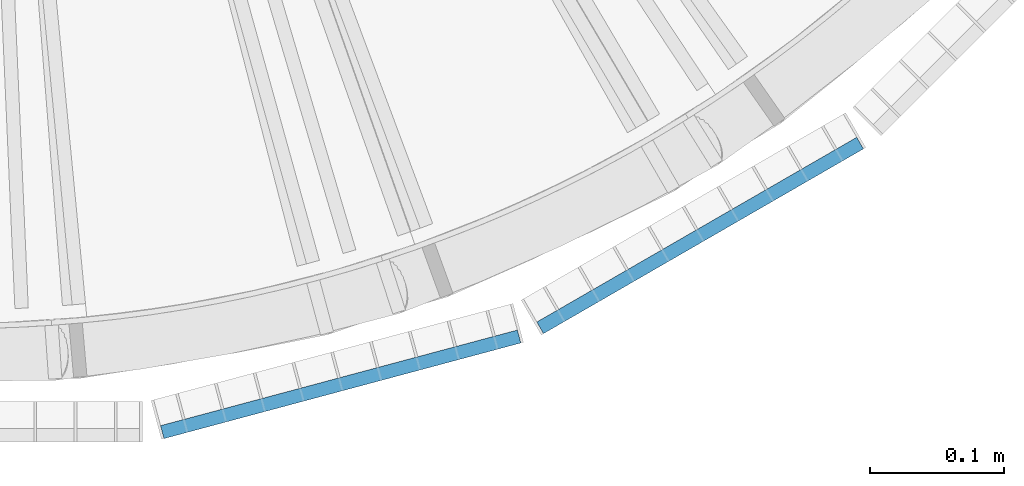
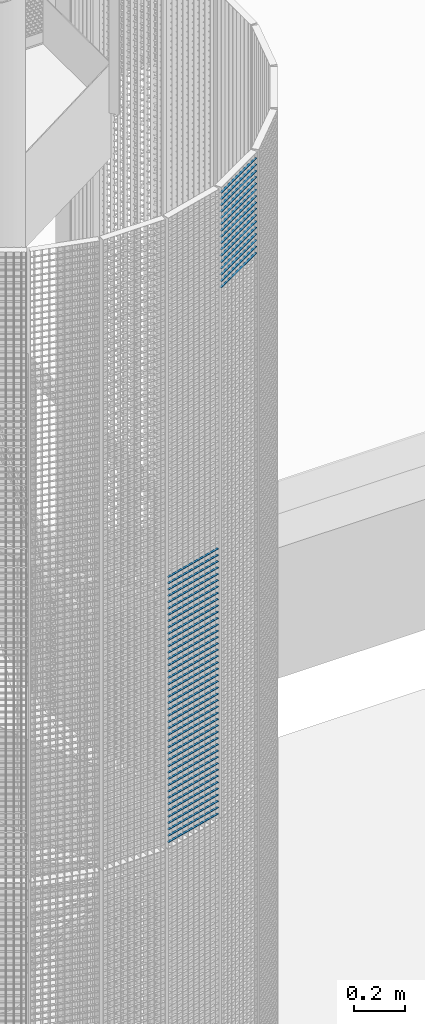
# One storey, part 393 of 1183: 59 beams, 2 elements without a shape of their own.
"""IFC2X3 building model written with IfcOpenShell, lengths in millimetres."""

from ifc_helpers import new_model, si_unit, frame, origin_with_axes, origin_2d_with_axis, place, context, subcontext, project, spatial, rectangle, extrude, material, type_object, element, aggregate, save


model = new_model("IFC2X3")

# Units and contexts
model_context = context("Model", 3, precision=1e-05, world=origin_with_axes())
body_context = subcontext(model_context, "Body", "Model", "MODEL_VIEW")
ifc_project = project(units=[si_unit("LENGTHUNIT", "METRE", prefix="MILLI"), si_unit("AREAUNIT", "SQUARE_METRE"), si_unit("VOLUMEUNIT", "CUBIC_METRE"), si_unit("MASSUNIT", "GRAM", prefix="KILO"), si_unit("TIMEUNIT", "SECOND"), si_unit("PLANEANGLEUNIT", "RADIAN"), si_unit("SOLIDANGLEUNIT", "STERADIAN"), si_unit("THERMODYNAMICTEMPERATUREUNIT", "DEGREE_CELSIUS"), si_unit("LUMINOUSINTENSITYUNIT", "LUMEN")], contexts=[model_context])

# Site, building, storey
site_placement = place(None, origin_with_axes())
site = spatial("IfcSite", under=ifc_project, at=site_placement, Name="Undefined", CompositionType="ELEMENT")
building_placement = place(site_placement, origin_with_axes())
building = spatial("IfcBuilding", under=site, at=building_placement, Name="Undefined", CompositionType="ELEMENT")
storey_placement = place(building_placement, origin_with_axes())
storey = spatial("IfcBuildingStorey", under=building, at=storey_placement, Name="Undefined", CompositionType="ELEMENT", Elevation=0.0)

# Assembly, beams
assembly_1_placement = place(storey_placement, origin_with_axes())
assembly_1 = element("IfcElementAssembly", 1, at=assembly_1_placement, inside=storey, Name="BORDURE", AssemblyPlace="NOTDEFINED", PredefinedType="NOTDEFINED")
ifc_material = material(Name="STEEL/S235JR")
beam_type = type_object("IfcBeamType", Name="PL2*10", PredefinedType="NOTDEFINED")
beam_1_placement = place(assembly_1_placement, frame((22021.4837339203, -1039.82309522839, 16290.0), z_axis=(0.258819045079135, -0.965925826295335, 0.0), x_axis=(-0.965925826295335, -0.258819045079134, 0.0)))
beam_1 = element("IfcBeam", 2, at=beam_1_placement, type_object=beam_type, material=ifc_material, Name="ENTRETOISE", context=body_context, shape_type="SweptSolid", body=[
    extrude(rectangle(XDim=2.0, YDim=10.0, at=origin_2d_with_axis()), frame((275.999999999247, 9.09494701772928e-13, 1.53210777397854e-14), z_axis=(-1.0, 0.0, 0.0), x_axis=(0.0, -1.0, 0.0)), (0.0, 0.0, 1.0), 276.0),
])
beam_2_placement = place(assembly_1_placement, frame((22021.4837339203, -1039.82309522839, 16260.0), z_axis=(0.258819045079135, -0.965925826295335, 0.0), x_axis=(-0.965925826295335, -0.258819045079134, 0.0)))
beam_2 = element("IfcBeam", 3, at=beam_2_placement, type_object=beam_type, material=ifc_material, Name="ENTRETOISE", context=body_context, shape_type="SweptSolid", body=[
    extrude(rectangle(XDim=2.0, YDim=10.0, at=origin_2d_with_axis()), frame((275.999999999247, 9.09494701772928e-13, 1.53210777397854e-14), z_axis=(-1.0, 0.0, 0.0), x_axis=(0.0, -1.0, 0.0)), (0.0, 0.0, 1.0), 276.0),
])
beam_3_placement = place(assembly_1_placement, frame((22021.4837339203, -1039.82309522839, 16230.0), z_axis=(0.258819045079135, -0.965925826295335, 0.0), x_axis=(-0.965925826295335, -0.258819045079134, 0.0)))
beam_3 = element("IfcBeam", 4, at=beam_3_placement, type_object=beam_type, material=ifc_material, Name="ENTRETOISE", context=body_context, shape_type="SweptSolid", body=[
    extrude(rectangle(XDim=2.0, YDim=10.0, at=origin_2d_with_axis()), frame((275.999999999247, 9.09494701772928e-13, 1.53210777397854e-14), z_axis=(-1.0, 0.0, 0.0), x_axis=(0.0, -1.0, 0.0)), (0.0, 0.0, 1.0), 276.0),
])
beam_4_placement = place(assembly_1_placement, frame((22021.4837339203, -1039.82309522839, 16200.0), z_axis=(0.258819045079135, -0.965925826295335, 0.0), x_axis=(-0.965925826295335, -0.258819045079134, 0.0)))
beam_4 = element("IfcBeam", 5, at=beam_4_placement, type_object=beam_type, material=ifc_material, Name="ENTRETOISE", context=body_context, shape_type="SweptSolid", body=[
    extrude(rectangle(XDim=2.0, YDim=10.0, at=origin_2d_with_axis()), frame((275.999999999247, 9.09494701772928e-13, 1.53210777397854e-14), z_axis=(-1.0, 0.0, 0.0), x_axis=(0.0, -1.0, 0.0)), (0.0, 0.0, 1.0), 276.0),
])
beam_5_placement = place(assembly_1_placement, frame((22021.4837339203, -1039.82309522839, 16170.0), z_axis=(0.258819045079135, -0.965925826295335, 0.0), x_axis=(-0.965925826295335, -0.258819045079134, 0.0)))
beam_5 = element("IfcBeam", 6, at=beam_5_placement, type_object=beam_type, material=ifc_material, Name="ENTRETOISE", context=body_context, shape_type="SweptSolid", body=[
    extrude(rectangle(XDim=2.0, YDim=10.0, at=origin_2d_with_axis()), frame((275.999999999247, 9.09494701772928e-13, 1.53210777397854e-14), z_axis=(-1.0, 0.0, 0.0), x_axis=(0.0, -1.0, 0.0)), (0.0, 0.0, 1.0), 276.0),
])
beam_6_placement = place(assembly_1_placement, frame((22021.4837339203, -1039.82309522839, 16140.0), z_axis=(0.258819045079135, -0.965925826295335, 0.0), x_axis=(-0.965925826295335, -0.258819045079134, 0.0)))
beam_6 = element("IfcBeam", 7, at=beam_6_placement, type_object=beam_type, material=ifc_material, Name="ENTRETOISE", context=body_context, shape_type="SweptSolid", body=[
    extrude(rectangle(XDim=2.0, YDim=10.0, at=origin_2d_with_axis()), frame((275.999999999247, 9.09494701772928e-13, 1.53210777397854e-14), z_axis=(-1.0, 0.0, 0.0), x_axis=(0.0, -1.0, 0.0)), (0.0, 0.0, 1.0), 276.0),
])
beam_7_placement = place(assembly_1_placement, frame((22021.4837339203, -1039.82309522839, 15720.0), z_axis=(0.258819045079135, -0.965925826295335, 0.0), x_axis=(-0.965925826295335, -0.258819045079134, 0.0)))
beam_7 = element("IfcBeam", 8, at=beam_7_placement, type_object=beam_type, material=ifc_material, Name="ENTRETOISE", context=body_context, shape_type="SweptSolid", body=[
    extrude(rectangle(XDim=2.0, YDim=10.0, at=origin_2d_with_axis()), frame((275.999999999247, 9.09494701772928e-13, 1.53210777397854e-14), z_axis=(-1.0, 0.0, 0.0), x_axis=(0.0, -1.0, 0.0)), (0.0, 0.0, 1.0), 276.0),
])
beam_8_placement = place(assembly_1_placement, frame((22021.4837339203, -1039.82309522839, 15690.0), z_axis=(0.258819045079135, -0.965925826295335, 0.0), x_axis=(-0.965925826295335, -0.258819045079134, 0.0)))
beam_8 = element("IfcBeam", 9, at=beam_8_placement, type_object=beam_type, material=ifc_material, Name="ENTRETOISE", context=body_context, shape_type="SweptSolid", body=[
    extrude(rectangle(XDim=2.0, YDim=10.0, at=origin_2d_with_axis()), frame((275.999999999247, 9.09494701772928e-13, 1.53210777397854e-14), z_axis=(-1.0, 0.0, 0.0), x_axis=(0.0, -1.0, 0.0)), (0.0, 0.0, 1.0), 276.0),
])
beam_9_placement = place(assembly_1_placement, frame((22021.4837339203, -1039.82309522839, 15750.0), z_axis=(0.258819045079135, -0.965925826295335, 0.0), x_axis=(-0.965925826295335, -0.258819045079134, 0.0)))
beam_9 = element("IfcBeam", 10, at=beam_9_placement, type_object=beam_type, material=ifc_material, Name="ENTRETOISE", context=body_context, shape_type="SweptSolid", body=[
    extrude(rectangle(XDim=2.0, YDim=10.0, at=origin_2d_with_axis()), frame((275.999999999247, 9.09494701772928e-13, 1.53210777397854e-14), z_axis=(-1.0, 0.0, 0.0), x_axis=(0.0, -1.0, 0.0)), (0.0, 0.0, 1.0), 276.0),
])
beam_10_placement = place(assembly_1_placement, frame((22021.4837339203, -1039.82309522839, 15660.0), z_axis=(0.258819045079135, -0.965925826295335, 0.0), x_axis=(-0.965925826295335, -0.258819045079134, 0.0)))
beam_10 = element("IfcBeam", 11, at=beam_10_placement, type_object=beam_type, material=ifc_material, Name="ENTRETOISE", context=body_context, shape_type="SweptSolid", body=[
    extrude(rectangle(XDim=2.0, YDim=10.0, at=origin_2d_with_axis()), frame((275.999999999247, 9.09494701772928e-13, 1.53210777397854e-14), z_axis=(-1.0, 0.0, 0.0), x_axis=(0.0, -1.0, 0.0)), (0.0, 0.0, 1.0), 276.0),
])
beam_11_placement = place(assembly_1_placement, frame((22021.4837339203, -1039.82309522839, 15630.0), z_axis=(0.258819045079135, -0.965925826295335, 0.0), x_axis=(-0.965925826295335, -0.258819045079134, 0.0)))
beam_11 = element("IfcBeam", 12, at=beam_11_placement, type_object=beam_type, material=ifc_material, Name="ENTRETOISE", context=body_context, shape_type="SweptSolid", body=[
    extrude(rectangle(XDim=2.0, YDim=10.0, at=origin_2d_with_axis()), frame((275.999999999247, 9.09494701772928e-13, 1.53210777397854e-14), z_axis=(-1.0, 0.0, 0.0), x_axis=(0.0, -1.0, 0.0)), (0.0, 0.0, 1.0), 276.0),
])
beam_12_placement = place(assembly_1_placement, frame((22021.4837339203, -1039.82309522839, 15780.0), z_axis=(0.258819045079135, -0.965925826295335, 0.0), x_axis=(-0.965925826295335, -0.258819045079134, 0.0)))
beam_12 = element("IfcBeam", 13, at=beam_12_placement, type_object=beam_type, material=ifc_material, Name="ENTRETOISE", context=body_context, shape_type="SweptSolid", body=[
    extrude(rectangle(XDim=2.0, YDim=10.0, at=origin_2d_with_axis()), frame((275.999999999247, 9.09494701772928e-13, 1.53210777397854e-14), z_axis=(-1.0, 0.0, 0.0), x_axis=(0.0, -1.0, 0.0)), (0.0, 0.0, 1.0), 276.0),
])
beam_13_placement = place(assembly_1_placement, frame((22021.4837339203, -1039.82309522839, 15600.0), z_axis=(0.258819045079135, -0.965925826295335, 0.0), x_axis=(-0.965925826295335, -0.258819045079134, 0.0)))
beam_13 = element("IfcBeam", 14, at=beam_13_placement, type_object=beam_type, material=ifc_material, Name="ENTRETOISE", context=body_context, shape_type="SweptSolid", body=[
    extrude(rectangle(XDim=2.0, YDim=10.0, at=origin_2d_with_axis()), frame((275.999999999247, 9.09494701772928e-13, 1.53210777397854e-14), z_axis=(-1.0, 0.0, 0.0), x_axis=(0.0, -1.0, 0.0)), (0.0, 0.0, 1.0), 276.0),
])
beam_14_placement = place(assembly_1_placement, frame((22021.4837339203, -1039.82309522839, 15810.0), z_axis=(0.258819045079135, -0.965925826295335, 0.0), x_axis=(-0.965925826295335, -0.258819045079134, 0.0)))
beam_14 = element("IfcBeam", 15, at=beam_14_placement, type_object=beam_type, material=ifc_material, Name="ENTRETOISE", context=body_context, shape_type="SweptSolid", body=[
    extrude(rectangle(XDim=2.0, YDim=10.0, at=origin_2d_with_axis()), frame((275.999999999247, 9.09494701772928e-13, 1.53210777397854e-14), z_axis=(-1.0, 0.0, 0.0), x_axis=(0.0, -1.0, 0.0)), (0.0, 0.0, 1.0), 276.0),
])
beam_15_placement = place(assembly_1_placement, frame((22021.4837339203, -1039.82309522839, 15570.0), z_axis=(0.258819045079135, -0.965925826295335, 0.0), x_axis=(-0.965925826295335, -0.258819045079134, 0.0)))
beam_15 = element("IfcBeam", 16, at=beam_15_placement, type_object=beam_type, material=ifc_material, Name="ENTRETOISE", context=body_context, shape_type="SweptSolid", body=[
    extrude(rectangle(XDim=2.0, YDim=10.0, at=origin_2d_with_axis()), frame((275.999999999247, 9.09494701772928e-13, 1.53210777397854e-14), z_axis=(-1.0, 0.0, 0.0), x_axis=(0.0, -1.0, 0.0)), (0.0, 0.0, 1.0), 276.0),
])
beam_16_placement = place(assembly_1_placement, frame((22021.4837339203, -1039.82309522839, 15540.0), z_axis=(0.258819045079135, -0.965925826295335, 0.0), x_axis=(-0.965925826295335, -0.258819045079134, 0.0)))
beam_16 = element("IfcBeam", 17, at=beam_16_placement, type_object=beam_type, material=ifc_material, Name="ENTRETOISE", context=body_context, shape_type="SweptSolid", body=[
    extrude(rectangle(XDim=2.0, YDim=10.0, at=origin_2d_with_axis()), frame((275.999999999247, 9.09494701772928e-13, 1.53210777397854e-14), z_axis=(-1.0, 0.0, 0.0), x_axis=(0.0, -1.0, 0.0)), (0.0, 0.0, 1.0), 276.0),
])
beam_17_placement = place(assembly_1_placement, frame((22021.4837339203, -1039.82309522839, 15840.0), z_axis=(0.258819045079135, -0.965925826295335, 0.0), x_axis=(-0.965925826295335, -0.258819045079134, 0.0)))
beam_17 = element("IfcBeam", 18, at=beam_17_placement, type_object=beam_type, material=ifc_material, Name="ENTRETOISE", context=body_context, shape_type="SweptSolid", body=[
    extrude(rectangle(XDim=2.0, YDim=10.0, at=origin_2d_with_axis()), frame((275.999999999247, 9.09494701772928e-13, 1.53210777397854e-14), z_axis=(-1.0, 0.0, 0.0), x_axis=(0.0, -1.0, 0.0)), (0.0, 0.0, 1.0), 276.0),
])
beam_18_placement = place(assembly_1_placement, frame((22021.4837339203, -1039.82309522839, 15510.0), z_axis=(0.258819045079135, -0.965925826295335, 0.0), x_axis=(-0.965925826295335, -0.258819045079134, 0.0)))
beam_18 = element("IfcBeam", 19, at=beam_18_placement, type_object=beam_type, material=ifc_material, Name="ENTRETOISE", context=body_context, shape_type="SweptSolid", body=[
    extrude(rectangle(XDim=2.0, YDim=10.0, at=origin_2d_with_axis()), frame((275.999999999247, 9.09494701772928e-13, 1.53210777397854e-14), z_axis=(-1.0, 0.0, 0.0), x_axis=(0.0, -1.0, 0.0)), (0.0, 0.0, 1.0), 276.0),
])
beam_19_placement = place(assembly_1_placement, frame((22021.4837339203, -1039.82309522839, 15480.0), z_axis=(0.258819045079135, -0.965925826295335, 0.0), x_axis=(-0.965925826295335, -0.258819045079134, 0.0)))
beam_19 = element("IfcBeam", 20, at=beam_19_placement, type_object=beam_type, material=ifc_material, Name="ENTRETOISE", context=body_context, shape_type="SweptSolid", body=[
    extrude(rectangle(XDim=2.0, YDim=10.0, at=origin_2d_with_axis()), frame((275.999999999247, 9.09494701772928e-13, 1.53210777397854e-14), z_axis=(-1.0, 0.0, 0.0), x_axis=(0.0, -1.0, 0.0)), (0.0, 0.0, 1.0), 276.0),
])
beam_20_placement = place(assembly_1_placement, frame((22021.4837339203, -1039.82309522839, 15870.0), z_axis=(0.258819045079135, -0.965925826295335, 0.0), x_axis=(-0.965925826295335, -0.258819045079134, 0.0)))
beam_20 = element("IfcBeam", 21, at=beam_20_placement, type_object=beam_type, material=ifc_material, Name="ENTRETOISE", context=body_context, shape_type="SweptSolid", body=[
    extrude(rectangle(XDim=2.0, YDim=10.0, at=origin_2d_with_axis()), frame((275.999999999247, 9.09494701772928e-13, 1.53210777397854e-14), z_axis=(-1.0, 0.0, 0.0), x_axis=(0.0, -1.0, 0.0)), (0.0, 0.0, 1.0), 276.0),
])
beam_21_placement = place(assembly_1_placement, frame((22021.4837339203, -1039.82309522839, 15450.0), z_axis=(0.258819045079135, -0.965925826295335, 0.0), x_axis=(-0.965925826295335, -0.258819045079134, 0.0)))
beam_21 = element("IfcBeam", 22, at=beam_21_placement, type_object=beam_type, material=ifc_material, Name="ENTRETOISE", context=body_context, shape_type="SweptSolid", body=[
    extrude(rectangle(XDim=2.0, YDim=10.0, at=origin_2d_with_axis()), frame((275.999999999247, 9.09494701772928e-13, 1.53210777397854e-14), z_axis=(-1.0, 0.0, 0.0), x_axis=(0.0, -1.0, 0.0)), (0.0, 0.0, 1.0), 276.0),
])
beam_22_placement = place(assembly_1_placement, frame((22021.4837339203, -1039.82309522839, 15420.0), z_axis=(0.258819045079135, -0.965925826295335, 0.0), x_axis=(-0.965925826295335, -0.258819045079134, 0.0)))
beam_22 = element("IfcBeam", 23, at=beam_22_placement, type_object=beam_type, material=ifc_material, Name="ENTRETOISE", context=body_context, shape_type="SweptSolid", body=[
    extrude(rectangle(XDim=2.0, YDim=10.0, at=origin_2d_with_axis()), frame((275.999999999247, 9.09494701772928e-13, 1.53210777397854e-14), z_axis=(-1.0, 0.0, 0.0), x_axis=(0.0, -1.0, 0.0)), (0.0, 0.0, 1.0), 276.0),
])
beam_23_placement = place(assembly_1_placement, frame((22021.4837339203, -1039.82309522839, 15900.0), z_axis=(0.258819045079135, -0.965925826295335, 0.0), x_axis=(-0.965925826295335, -0.258819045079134, 0.0)))
beam_23 = element("IfcBeam", 24, at=beam_23_placement, type_object=beam_type, material=ifc_material, Name="ENTRETOISE", context=body_context, shape_type="SweptSolid", body=[
    extrude(rectangle(XDim=2.0, YDim=10.0, at=origin_2d_with_axis()), frame((275.999999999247, 9.09494701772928e-13, 1.53210777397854e-14), z_axis=(-1.0, 0.0, 0.0), x_axis=(0.0, -1.0, 0.0)), (0.0, 0.0, 1.0), 276.0),
])
beam_24_placement = place(assembly_1_placement, frame((22021.4837339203, -1039.82309522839, 15390.0), z_axis=(0.258819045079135, -0.965925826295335, 0.0), x_axis=(-0.965925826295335, -0.258819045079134, 0.0)))
beam_24 = element("IfcBeam", 25, at=beam_24_placement, type_object=beam_type, material=ifc_material, Name="ENTRETOISE", context=body_context, shape_type="SweptSolid", body=[
    extrude(rectangle(XDim=2.0, YDim=10.0, at=origin_2d_with_axis()), frame((275.999999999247, 9.09494701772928e-13, 1.53210777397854e-14), z_axis=(-1.0, 0.0, 0.0), x_axis=(0.0, -1.0, 0.0)), (0.0, 0.0, 1.0), 276.0),
])
beam_25_placement = place(assembly_1_placement, frame((22021.4837339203, -1039.82309522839, 15930.0), z_axis=(0.258819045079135, -0.965925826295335, 0.0), x_axis=(-0.965925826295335, -0.258819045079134, 0.0)))
beam_25 = element("IfcBeam", 26, at=beam_25_placement, type_object=beam_type, material=ifc_material, Name="ENTRETOISE", context=body_context, shape_type="SweptSolid", body=[
    extrude(rectangle(XDim=2.0, YDim=10.0, at=origin_2d_with_axis()), frame((275.999999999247, 9.09494701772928e-13, 1.53210777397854e-14), z_axis=(-1.0, 0.0, 0.0), x_axis=(0.0, -1.0, 0.0)), (0.0, 0.0, 1.0), 276.0),
])
beam_26_placement = place(assembly_1_placement, frame((22021.4837339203, -1039.82309522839, 15360.0), z_axis=(0.258819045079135, -0.965925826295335, 0.0), x_axis=(-0.965925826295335, -0.258819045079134, 0.0)))
beam_26 = element("IfcBeam", 27, at=beam_26_placement, type_object=beam_type, material=ifc_material, Name="ENTRETOISE", context=body_context, shape_type="SweptSolid", body=[
    extrude(rectangle(XDim=2.0, YDim=10.0, at=origin_2d_with_axis()), frame((275.999999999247, 9.09494701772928e-13, 1.53210777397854e-14), z_axis=(-1.0, 0.0, 0.0), x_axis=(0.0, -1.0, 0.0)), (0.0, 0.0, 1.0), 276.0),
])
beam_27_placement = place(assembly_1_placement, frame((22021.4837339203, -1039.82309522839, 15330.0), z_axis=(0.258819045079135, -0.965925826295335, 0.0), x_axis=(-0.965925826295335, -0.258819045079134, 0.0)))
beam_27 = element("IfcBeam", 28, at=beam_27_placement, type_object=beam_type, material=ifc_material, Name="ENTRETOISE", context=body_context, shape_type="SweptSolid", body=[
    extrude(rectangle(XDim=2.0, YDim=10.0, at=origin_2d_with_axis()), frame((275.999999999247, 9.09494701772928e-13, 1.53210777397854e-14), z_axis=(-1.0, 0.0, 0.0), x_axis=(0.0, -1.0, 0.0)), (0.0, 0.0, 1.0), 276.0),
])
beam_28_placement = place(assembly_1_placement, frame((22021.4837339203, -1039.82309522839, 15960.0), z_axis=(0.258819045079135, -0.965925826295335, 0.0), x_axis=(-0.965925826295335, -0.258819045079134, 0.0)))
beam_28 = element("IfcBeam", 29, at=beam_28_placement, type_object=beam_type, material=ifc_material, Name="ENTRETOISE", context=body_context, shape_type="SweptSolid", body=[
    extrude(rectangle(XDim=2.0, YDim=10.0, at=origin_2d_with_axis()), frame((275.999999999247, 9.09494701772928e-13, 1.53210777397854e-14), z_axis=(-1.0, 0.0, 0.0), x_axis=(0.0, -1.0, 0.0)), (0.0, 0.0, 1.0), 276.0),
])
beam_29_placement = place(assembly_1_placement, frame((22021.4837339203, -1039.82309522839, 15300.0), z_axis=(0.258819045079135, -0.965925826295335, 0.0), x_axis=(-0.965925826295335, -0.258819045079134, 0.0)))
beam_29 = element("IfcBeam", 30, at=beam_29_placement, type_object=beam_type, material=ifc_material, Name="ENTRETOISE", context=body_context, shape_type="SweptSolid", body=[
    extrude(rectangle(XDim=2.0, YDim=10.0, at=origin_2d_with_axis()), frame((275.999999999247, 9.09494701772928e-13, 1.53210777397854e-14), z_axis=(-1.0, 0.0, 0.0), x_axis=(0.0, -1.0, 0.0)), (0.0, 0.0, 1.0), 276.0),
])
beam_30_placement = place(assembly_1_placement, frame((22021.4837339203, -1039.82309522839, 15270.0), z_axis=(0.258819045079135, -0.965925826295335, 0.0), x_axis=(-0.965925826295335, -0.258819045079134, 0.0)))
beam_30 = element("IfcBeam", 31, at=beam_30_placement, type_object=beam_type, material=ifc_material, Name="ENTRETOISE", context=body_context, shape_type="SweptSolid", body=[
    extrude(rectangle(XDim=2.0, YDim=10.0, at=origin_2d_with_axis()), frame((275.999999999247, 9.09494701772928e-13, 1.53210777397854e-14), z_axis=(-1.0, 0.0, 0.0), x_axis=(0.0, -1.0, 0.0)), (0.0, 0.0, 1.0), 276.0),
])
beam_31_placement = place(assembly_1_placement, frame((22021.4837339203, -1039.82309522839, 15990.0), z_axis=(0.258819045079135, -0.965925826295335, 0.0), x_axis=(-0.965925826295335, -0.258819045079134, 0.0)))
beam_31 = element("IfcBeam", 32, at=beam_31_placement, type_object=beam_type, material=ifc_material, Name="ENTRETOISE", context=body_context, shape_type="SweptSolid", body=[
    extrude(rectangle(XDim=2.0, YDim=10.0, at=origin_2d_with_axis()), frame((275.999999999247, 9.09494701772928e-13, 1.53210777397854e-14), z_axis=(-1.0, 0.0, 0.0), x_axis=(0.0, -1.0, 0.0)), (0.0, 0.0, 1.0), 276.0),
])
beam_32_placement = place(assembly_1_placement, frame((22021.4837339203, -1039.82309522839, 15240.0), z_axis=(0.258819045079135, -0.965925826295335, 0.0), x_axis=(-0.965925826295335, -0.258819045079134, 0.0)))
beam_32 = element("IfcBeam", 33, at=beam_32_placement, type_object=beam_type, material=ifc_material, Name="ENTRETOISE", context=body_context, shape_type="SweptSolid", body=[
    extrude(rectangle(XDim=2.0, YDim=10.0, at=origin_2d_with_axis()), frame((275.999999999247, 9.09494701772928e-13, 1.53210777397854e-14), z_axis=(-1.0, 0.0, 0.0), x_axis=(0.0, -1.0, 0.0)), (0.0, 0.0, 1.0), 276.0),
])
beam_33_placement = place(assembly_1_placement, frame((22021.4837339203, -1039.82309522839, 16020.0), z_axis=(0.258819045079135, -0.965925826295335, 0.0), x_axis=(-0.965925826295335, -0.258819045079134, 0.0)))
beam_33 = element("IfcBeam", 34, at=beam_33_placement, type_object=beam_type, material=ifc_material, Name="ENTRETOISE", context=body_context, shape_type="SweptSolid", body=[
    extrude(rectangle(XDim=2.0, YDim=10.0, at=origin_2d_with_axis()), frame((275.999999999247, 9.09494701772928e-13, 1.53210777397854e-14), z_axis=(-1.0, 0.0, 0.0), x_axis=(0.0, -1.0, 0.0)), (0.0, 0.0, 1.0), 276.0),
])
beam_34_placement = place(assembly_1_placement, frame((22021.4837339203, -1039.82309522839, 15210.0), z_axis=(0.258819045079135, -0.965925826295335, 0.0), x_axis=(-0.965925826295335, -0.258819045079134, 0.0)))
beam_34 = element("IfcBeam", 35, at=beam_34_placement, type_object=beam_type, material=ifc_material, Name="ENTRETOISE", context=body_context, shape_type="SweptSolid", body=[
    extrude(rectangle(XDim=2.0, YDim=10.0, at=origin_2d_with_axis()), frame((275.999999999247, 9.09494701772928e-13, 1.53210777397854e-14), z_axis=(-1.0, 0.0, 0.0), x_axis=(0.0, -1.0, 0.0)), (0.0, 0.0, 1.0), 276.0),
])
beam_35_placement = place(assembly_1_placement, frame((22021.4837339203, -1039.82309522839, 15180.0), z_axis=(0.258819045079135, -0.965925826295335, 0.0), x_axis=(-0.965925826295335, -0.258819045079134, 0.0)))
beam_35 = element("IfcBeam", 36, at=beam_35_placement, type_object=beam_type, material=ifc_material, Name="ENTRETOISE", context=body_context, shape_type="SweptSolid", body=[
    extrude(rectangle(XDim=2.0, YDim=10.0, at=origin_2d_with_axis()), frame((275.999999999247, 9.09494701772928e-13, 1.53210777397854e-14), z_axis=(-1.0, 0.0, 0.0), x_axis=(0.0, -1.0, 0.0)), (0.0, 0.0, 1.0), 276.0),
])
beam_36_placement = place(assembly_1_placement, frame((22021.4837339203, -1039.82309522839, 16050.0), z_axis=(0.258819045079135, -0.965925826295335, 0.0), x_axis=(-0.965925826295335, -0.258819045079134, 0.0)))
beam_36 = element("IfcBeam", 37, at=beam_36_placement, type_object=beam_type, material=ifc_material, Name="ENTRETOISE", context=body_context, shape_type="SweptSolid", body=[
    extrude(rectangle(XDim=2.0, YDim=10.0, at=origin_2d_with_axis()), frame((275.999999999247, 9.09494701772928e-13, 1.53210777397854e-14), z_axis=(-1.0, 0.0, 0.0), x_axis=(0.0, -1.0, 0.0)), (0.0, 0.0, 1.0), 276.0),
])
beam_37_placement = place(assembly_1_placement, frame((22021.4837339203, -1039.82309522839, 15150.0), z_axis=(0.258819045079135, -0.965925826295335, 0.0), x_axis=(-0.965925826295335, -0.258819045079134, 0.0)))
beam_37 = element("IfcBeam", 38, at=beam_37_placement, type_object=beam_type, material=ifc_material, Name="ENTRETOISE", context=body_context, shape_type="SweptSolid", body=[
    extrude(rectangle(XDim=2.0, YDim=10.0, at=origin_2d_with_axis()), frame((275.999999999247, 9.09494701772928e-13, 1.53210777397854e-14), z_axis=(-1.0, 0.0, 0.0), x_axis=(0.0, -1.0, 0.0)), (0.0, 0.0, 1.0), 276.0),
])
beam_38_placement = place(assembly_1_placement, frame((22021.4837339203, -1039.82309522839, 15120.0), z_axis=(0.258819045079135, -0.965925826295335, 0.0), x_axis=(-0.965925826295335, -0.258819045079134, 0.0)))
beam_38 = element("IfcBeam", 39, at=beam_38_placement, type_object=beam_type, material=ifc_material, Name="ENTRETOISE", context=body_context, shape_type="SweptSolid", body=[
    extrude(rectangle(XDim=2.0, YDim=10.0, at=origin_2d_with_axis()), frame((275.999999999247, 9.09494701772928e-13, 1.53210777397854e-14), z_axis=(-1.0, 0.0, 0.0), x_axis=(0.0, -1.0, 0.0)), (0.0, 0.0, 1.0), 276.0),
])
beam_39_placement = place(assembly_1_placement, frame((22021.4837339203, -1039.82309522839, 16080.0), z_axis=(0.258819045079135, -0.965925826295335, 0.0), x_axis=(-0.965925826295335, -0.258819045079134, 0.0)))
beam_39 = element("IfcBeam", 40, at=beam_39_placement, type_object=beam_type, material=ifc_material, Name="ENTRETOISE", context=body_context, shape_type="SweptSolid", body=[
    extrude(rectangle(XDim=2.0, YDim=10.0, at=origin_2d_with_axis()), frame((275.999999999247, 9.09494701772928e-13, 1.53210777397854e-14), z_axis=(-1.0, 0.0, 0.0), x_axis=(0.0, -1.0, 0.0)), (0.0, 0.0, 1.0), 276.0),
])
beam_40_placement = place(assembly_1_placement, frame((22021.4837339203, -1039.82309522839, 15090.0), z_axis=(0.258819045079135, -0.965925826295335, 0.0), x_axis=(-0.965925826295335, -0.258819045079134, 0.0)))
beam_40 = element("IfcBeam", 41, at=beam_40_placement, type_object=beam_type, material=ifc_material, Name="ENTRETOISE", context=body_context, shape_type="SweptSolid", body=[
    extrude(rectangle(XDim=2.0, YDim=10.0, at=origin_2d_with_axis()), frame((275.999999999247, 9.09494701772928e-13, 1.53210777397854e-14), z_axis=(-1.0, 0.0, 0.0), x_axis=(0.0, -1.0, 0.0)), (0.0, 0.0, 1.0), 276.0),
])
beam_41_placement = place(assembly_1_placement, frame((22021.4837339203, -1039.82309522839, 15060.0), z_axis=(0.258819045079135, -0.965925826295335, 0.0), x_axis=(-0.965925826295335, -0.258819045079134, 0.0)))
beam_41 = element("IfcBeam", 42, at=beam_41_placement, type_object=beam_type, material=ifc_material, Name="ENTRETOISE", context=body_context, shape_type="SweptSolid", body=[
    extrude(rectangle(XDim=2.0, YDim=10.0, at=origin_2d_with_axis()), frame((275.999999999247, 9.09494701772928e-13, 1.53210777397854e-14), z_axis=(-1.0, 0.0, 0.0), x_axis=(0.0, -1.0, 0.0)), (0.0, 0.0, 1.0), 276.0),
])
beam_42_placement = place(assembly_1_placement, frame((22021.4837339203, -1039.82309522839, 16110.0), z_axis=(0.258819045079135, -0.965925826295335, 0.0), x_axis=(-0.965925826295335, -0.258819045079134, 0.0)))
beam_42 = element("IfcBeam", 43, at=beam_42_placement, type_object=beam_type, material=ifc_material, Name="ENTRETOISE", context=body_context, shape_type="SweptSolid", body=[
    extrude(rectangle(XDim=2.0, YDim=10.0, at=origin_2d_with_axis()), frame((275.999999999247, 9.09494701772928e-13, 1.53210777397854e-14), z_axis=(-1.0, 0.0, 0.0), x_axis=(0.0, -1.0, 0.0)), (0.0, 0.0, 1.0), 276.0),
])
beam_43_placement = place(assembly_1_placement, frame((22021.4837339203, -1039.82309522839, 15030.0), z_axis=(0.258819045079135, -0.965925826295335, 0.0), x_axis=(-0.965925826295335, -0.258819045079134, 0.0)))
beam_43 = element("IfcBeam", 44, at=beam_43_placement, type_object=beam_type, material=ifc_material, Name="ENTRETOISE", context=body_context, shape_type="SweptSolid", body=[
    extrude(rectangle(XDim=2.0, YDim=10.0, at=origin_2d_with_axis()), frame((275.999999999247, 9.09494701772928e-13, 1.53210777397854e-14), z_axis=(-1.0, 0.0, 0.0), x_axis=(0.0, -1.0, 0.0)), (0.0, 0.0, 1.0), 276.0),
])
aggregate(assembly_1, [beam_1, beam_2, beam_3, beam_4, beam_5, beam_6, beam_7, beam_8, beam_9, beam_10, beam_11, beam_12, beam_13, beam_14, beam_15, beam_16, beam_17, beam_18, beam_19, beam_20, beam_21, beam_22, beam_23, beam_24, beam_25, beam_26, beam_27, beam_28, beam_29, beam_30, beam_31, beam_32, beam_33, beam_34, beam_35, beam_36, beam_37, beam_38, beam_39, beam_40, beam_41, beam_42, beam_43])

assembly_2_placement = place(storey_placement, origin_with_axes())
assembly_2 = element("IfcElementAssembly", 45, at=assembly_2_placement, inside=storey, Name="BORDURE", AssemblyPlace="NOTDEFINED", PredefinedType="NOTDEFINED")
beam_44_placement = place(assembly_2_placement, frame((22276.2480445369, -895.303964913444, 17970.0), z_axis=(0.499999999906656, -0.866025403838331, 0.0), x_axis=(-0.866025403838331, -0.499999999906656, 0.0)))
beam_44 = element("IfcBeam", 46, at=beam_44_placement, type_object=beam_type, material=ifc_material, Name="ENTRETOISE", context=body_context, shape_type="SweptSolid", body=[
    extrude(rectangle(XDim=2.0, YDim=10.0, at=origin_2d_with_axis()), frame((275.999999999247, 9.09494701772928e-13, 1.53210777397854e-14), z_axis=(-1.0, 0.0, 0.0), x_axis=(0.0, -1.0, 0.0)), (0.0, 0.0, 1.0), 276.0),
])
beam_45_placement = place(assembly_2_placement, frame((22276.2480445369, -895.303964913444, 17940.0), z_axis=(0.499999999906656, -0.866025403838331, 0.0), x_axis=(-0.866025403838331, -0.499999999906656, 0.0)))
beam_45 = element("IfcBeam", 47, at=beam_45_placement, type_object=beam_type, material=ifc_material, Name="ENTRETOISE", context=body_context, shape_type="SweptSolid", body=[
    extrude(rectangle(XDim=2.0, YDim=10.0, at=origin_2d_with_axis()), frame((275.999999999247, 9.09494701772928e-13, 1.53210777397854e-14), z_axis=(-1.0, 0.0, 0.0), x_axis=(0.0, -1.0, 0.0)), (0.0, 0.0, 1.0), 276.0),
])
beam_46_placement = place(assembly_2_placement, frame((22276.2480445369, -895.303964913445, 17910.0), z_axis=(0.499999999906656, -0.866025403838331, 0.0), x_axis=(-0.866025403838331, -0.499999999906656, 0.0)))
beam_46 = element("IfcBeam", 48, at=beam_46_placement, type_object=beam_type, material=ifc_material, Name="ENTRETOISE", context=body_context, shape_type="SweptSolid", body=[
    extrude(rectangle(XDim=2.0, YDim=10.0, at=origin_2d_with_axis()), frame((275.999999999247, 9.09494701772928e-13, 1.53210777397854e-14), z_axis=(-1.0, 0.0, 0.0), x_axis=(0.0, -1.0, 0.0)), (0.0, 0.0, 1.0), 276.0),
])
beam_47_placement = place(assembly_2_placement, frame((22276.2480445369, -895.303964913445, 17880.0), z_axis=(0.499999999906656, -0.866025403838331, 0.0), x_axis=(-0.866025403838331, -0.499999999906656, 0.0)))
beam_47 = element("IfcBeam", 49, at=beam_47_placement, type_object=beam_type, material=ifc_material, Name="ENTRETOISE", context=body_context, shape_type="SweptSolid", body=[
    extrude(rectangle(XDim=2.0, YDim=10.0, at=origin_2d_with_axis()), frame((275.999999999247, 9.09494701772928e-13, 1.53210777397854e-14), z_axis=(-1.0, 0.0, 0.0), x_axis=(0.0, -1.0, 0.0)), (0.0, 0.0, 1.0), 276.0),
])
beam_48_placement = place(assembly_2_placement, frame((22276.2480445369, -895.303964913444, 17850.0), z_axis=(0.499999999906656, -0.866025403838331, 0.0), x_axis=(-0.866025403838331, -0.499999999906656, 0.0)))
beam_48 = element("IfcBeam", 50, at=beam_48_placement, type_object=beam_type, material=ifc_material, Name="ENTRETOISE", context=body_context, shape_type="SweptSolid", body=[
    extrude(rectangle(XDim=2.0, YDim=10.0, at=origin_2d_with_axis()), frame((275.999999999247, 9.09494701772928e-13, 1.53210777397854e-14), z_axis=(-1.0, 0.0, 0.0), x_axis=(0.0, -1.0, 0.0)), (0.0, 0.0, 1.0), 276.0),
])
beam_49_placement = place(assembly_2_placement, frame((22276.2480445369, -895.303964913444, 17820.0), z_axis=(0.499999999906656, -0.866025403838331, 0.0), x_axis=(-0.866025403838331, -0.499999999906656, 0.0)))
beam_49 = element("IfcBeam", 51, at=beam_49_placement, type_object=beam_type, material=ifc_material, Name="ENTRETOISE", context=body_context, shape_type="SweptSolid", body=[
    extrude(rectangle(XDim=2.0, YDim=10.0, at=origin_2d_with_axis()), frame((275.999999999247, 9.09494701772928e-13, 1.53210777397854e-14), z_axis=(-1.0, 0.0, 0.0), x_axis=(0.0, -1.0, 0.0)), (0.0, 0.0, 1.0), 276.0),
])
beam_50_placement = place(assembly_2_placement, frame((22276.2480445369, -895.303964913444, 17790.0), z_axis=(0.499999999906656, -0.866025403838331, 0.0), x_axis=(-0.866025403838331, -0.499999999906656, 0.0)))
beam_50 = element("IfcBeam", 52, at=beam_50_placement, type_object=beam_type, material=ifc_material, Name="ENTRETOISE", context=body_context, shape_type="SweptSolid", body=[
    extrude(rectangle(XDim=2.0, YDim=10.0, at=origin_2d_with_axis()), frame((275.999999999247, 9.09494701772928e-13, 1.53210777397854e-14), z_axis=(-1.0, 0.0, 0.0), x_axis=(0.0, -1.0, 0.0)), (0.0, 0.0, 1.0), 276.0),
])
beam_51_placement = place(assembly_2_placement, frame((22276.2480445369, -895.303964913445, 17760.0), z_axis=(0.499999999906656, -0.866025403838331, 0.0), x_axis=(-0.866025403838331, -0.499999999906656, 0.0)))
beam_51 = element("IfcBeam", 53, at=beam_51_placement, type_object=beam_type, material=ifc_material, Name="ENTRETOISE", context=body_context, shape_type="SweptSolid", body=[
    extrude(rectangle(XDim=2.0, YDim=10.0, at=origin_2d_with_axis()), frame((275.999999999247, 9.09494701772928e-13, 1.53210777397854e-14), z_axis=(-1.0, 0.0, 0.0), x_axis=(0.0, -1.0, 0.0)), (0.0, 0.0, 1.0), 276.0),
])
beam_52_placement = place(assembly_2_placement, frame((22276.2480445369, -895.303964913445, 17730.0), z_axis=(0.499999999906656, -0.866025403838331, 0.0), x_axis=(-0.866025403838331, -0.499999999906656, 0.0)))
beam_52 = element("IfcBeam", 54, at=beam_52_placement, type_object=beam_type, material=ifc_material, Name="ENTRETOISE", context=body_context, shape_type="SweptSolid", body=[
    extrude(rectangle(XDim=2.0, YDim=10.0, at=origin_2d_with_axis()), frame((275.999999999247, 9.09494701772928e-13, 1.53210777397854e-14), z_axis=(-1.0, 0.0, 0.0), x_axis=(0.0, -1.0, 0.0)), (0.0, 0.0, 1.0), 276.0),
])
beam_53_placement = place(assembly_2_placement, frame((22276.2480445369, -895.303964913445, 17700.0), z_axis=(0.499999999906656, -0.866025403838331, 0.0), x_axis=(-0.866025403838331, -0.499999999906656, 0.0)))
beam_53 = element("IfcBeam", 55, at=beam_53_placement, type_object=beam_type, material=ifc_material, Name="ENTRETOISE", context=body_context, shape_type="SweptSolid", body=[
    extrude(rectangle(XDim=2.0, YDim=10.0, at=origin_2d_with_axis()), frame((275.999999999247, 9.09494701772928e-13, 1.53210777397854e-14), z_axis=(-1.0, 0.0, 0.0), x_axis=(0.0, -1.0, 0.0)), (0.0, 0.0, 1.0), 276.0),
])
beam_54_placement = place(assembly_2_placement, frame((22276.2480445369, -895.303964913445, 17670.0), z_axis=(0.499999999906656, -0.866025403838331, 0.0), x_axis=(-0.866025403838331, -0.499999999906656, 0.0)))
beam_54 = element("IfcBeam", 56, at=beam_54_placement, type_object=beam_type, material=ifc_material, Name="ENTRETOISE", context=body_context, shape_type="SweptSolid", body=[
    extrude(rectangle(XDim=2.0, YDim=10.0, at=origin_2d_with_axis()), frame((275.999999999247, 9.09494701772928e-13, 1.53210777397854e-14), z_axis=(-1.0, 0.0, 0.0), x_axis=(0.0, -1.0, 0.0)), (0.0, 0.0, 1.0), 276.0),
])
beam_55_placement = place(assembly_2_placement, frame((22276.2480445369, -895.303964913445, 17640.0), z_axis=(0.499999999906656, -0.866025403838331, 0.0), x_axis=(-0.866025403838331, -0.499999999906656, 0.0)))
beam_55 = element("IfcBeam", 57, at=beam_55_placement, type_object=beam_type, material=ifc_material, Name="ENTRETOISE", context=body_context, shape_type="SweptSolid", body=[
    extrude(rectangle(XDim=2.0, YDim=10.0, at=origin_2d_with_axis()), frame((275.999999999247, 9.09494701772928e-13, 1.53210777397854e-14), z_axis=(-1.0, 0.0, 0.0), x_axis=(0.0, -1.0, 0.0)), (0.0, 0.0, 1.0), 276.0),
])
beam_56_placement = place(assembly_2_placement, frame((22276.2480445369, -895.303964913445, 17610.0), z_axis=(0.499999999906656, -0.866025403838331, 0.0), x_axis=(-0.866025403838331, -0.499999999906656, 0.0)))
beam_56 = element("IfcBeam", 58, at=beam_56_placement, type_object=beam_type, material=ifc_material, Name="ENTRETOISE", context=body_context, shape_type="SweptSolid", body=[
    extrude(rectangle(XDim=2.0, YDim=10.0, at=origin_2d_with_axis()), frame((275.999999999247, 9.09494701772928e-13, 1.53210777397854e-14), z_axis=(-1.0, 0.0, 0.0), x_axis=(0.0, -1.0, 0.0)), (0.0, 0.0, 1.0), 276.0),
])
beam_57_placement = place(assembly_2_placement, frame((22276.2480445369, -895.303964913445, 17580.0), z_axis=(0.499999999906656, -0.866025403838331, 0.0), x_axis=(-0.866025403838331, -0.499999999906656, 0.0)))
beam_57 = element("IfcBeam", 59, at=beam_57_placement, type_object=beam_type, material=ifc_material, Name="ENTRETOISE", context=body_context, shape_type="SweptSolid", body=[
    extrude(rectangle(XDim=2.0, YDim=10.0, at=origin_2d_with_axis()), frame((275.999999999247, 9.09494701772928e-13, 1.53210777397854e-14), z_axis=(-1.0, 0.0, 0.0), x_axis=(0.0, -1.0, 0.0)), (0.0, 0.0, 1.0), 276.0),
])
beam_58_placement = place(assembly_2_placement, frame((22276.2480445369, -895.303964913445, 17550.0), z_axis=(0.499999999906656, -0.866025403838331, 0.0), x_axis=(-0.866025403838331, -0.499999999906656, 0.0)))
beam_58 = element("IfcBeam", 60, at=beam_58_placement, type_object=beam_type, material=ifc_material, Name="ENTRETOISE", context=body_context, shape_type="SweptSolid", body=[
    extrude(rectangle(XDim=2.0, YDim=10.0, at=origin_2d_with_axis()), frame((275.999999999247, 9.09494701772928e-13, 1.53210777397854e-14), z_axis=(-1.0, 0.0, 0.0), x_axis=(0.0, -1.0, 0.0)), (0.0, 0.0, 1.0), 276.0),
])
beam_59_placement = place(assembly_2_placement, frame((22276.2480445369, -895.303964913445, 17520.0), z_axis=(0.499999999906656, -0.866025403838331, 0.0), x_axis=(-0.866025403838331, -0.499999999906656, 0.0)))
beam_59 = element("IfcBeam", 61, at=beam_59_placement, type_object=beam_type, material=ifc_material, Name="ENTRETOISE", context=body_context, shape_type="SweptSolid", body=[
    extrude(rectangle(XDim=2.0, YDim=10.0, at=origin_2d_with_axis()), frame((275.999999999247, 9.09494701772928e-13, 1.53210777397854e-14), z_axis=(-1.0, 0.0, 0.0), x_axis=(0.0, -1.0, 0.0)), (0.0, 0.0, 1.0), 276.0),
])
aggregate(assembly_2, [beam_44, beam_45, beam_46, beam_47, beam_48, beam_49, beam_50, beam_51, beam_52, beam_53, beam_54, beam_55, beam_56, beam_57, beam_58, beam_59])

save(model, "model.ifc")
